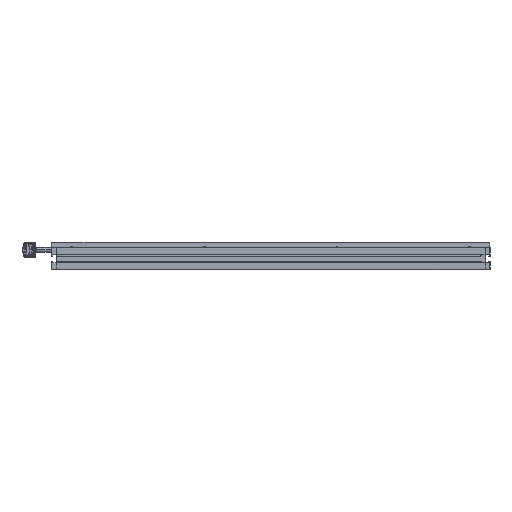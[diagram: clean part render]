
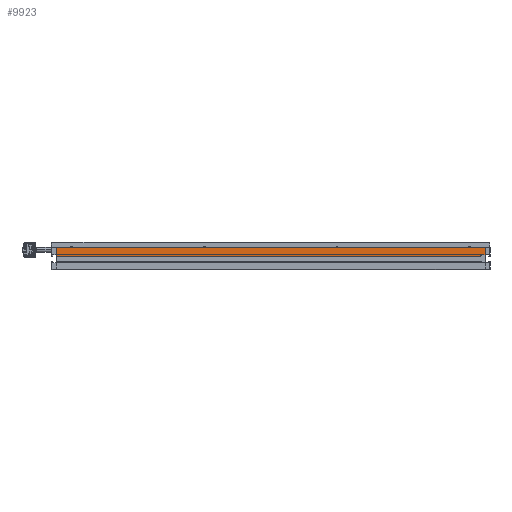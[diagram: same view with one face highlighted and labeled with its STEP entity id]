
A CAD part, front view. The second image highlights one B-rep face of the part: STEP entity #9923.
In plain terms, the highlighted planar face has unit normal (0, -1, 0).
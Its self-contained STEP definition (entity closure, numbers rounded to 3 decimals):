
#197 = EDGE_LOOP ( 'NONE', ( #3082, #5663, #5856, #2994, #9439, #401 ) ) ;
#401 = ORIENTED_EDGE ( 'NONE', *, *, #5069, .T. ) ;
#609 = EDGE_CURVE ( 'NONE', #11138, #11350, #5046, .T. ) ;
#720 = DIRECTION ( 'NONE',  ( -1., 0., 0. ) ) ;
#1024 = CARTESIAN_POINT ( 'NONE',  ( 153.5, -157., -6.15 ) ) ;
#1235 = DIRECTION ( 'NONE',  ( 0., 0., -1. ) ) ;
#1471 = CARTESIAN_POINT ( 'NONE',  ( -153.5, -157., 0. ) ) ;
#1520 = DIRECTION ( 'NONE',  ( -1., 0., 0. ) ) ;
#1668 = CIRCLE ( 'NONE', #11041, 1. ) ;
#2039 = VERTEX_POINT ( 'NONE', #1471 ) ;
#2724 = PLANE ( 'NONE',  #5752 ) ;
#2770 = VERTEX_POINT ( 'NONE', #11396 ) ;
#2994 = ORIENTED_EDGE ( 'NONE', *, *, #4063, .F. ) ;
#3042 = LINE ( 'NONE', #1024, #6306 ) ;
#3082 = ORIENTED_EDGE ( 'NONE', *, *, #6909, .F. ) ;
#3146 = DIRECTION ( 'NONE',  ( -1., 0., 0. ) ) ;
#3633 = VECTOR ( 'NONE', #1235, 1000. ) ;
#4063 = EDGE_CURVE ( 'NONE', #2770, #11138, #3042, .T. ) ;
#4111 = CARTESIAN_POINT ( 'NONE',  ( 150.501, -157., -6.15 ) ) ;
#4304 = VECTOR ( 'NONE', #720, 1000. ) ;
#5046 = LINE ( 'NONE', #5145, #4304 ) ;
#5069 = EDGE_CURVE ( 'NONE', #2039, #6296, #9110, .T. ) ;
#5145 = CARTESIAN_POINT ( 'NONE',  ( 153.5, -157., -5.2 ) ) ;
#5201 = CARTESIAN_POINT ( 'NONE',  ( 153.5, -157., 0. ) ) ;
#5413 = CARTESIAN_POINT ( 'NONE',  ( -153.5, -157., -6.15 ) ) ;
#5663 = ORIENTED_EDGE ( 'NONE', *, *, #7630, .T. ) ;
#5752 = AXIS2_PLACEMENT_3D ( 'NONE', #12201, #11297, #9272 ) ;
#5856 = ORIENTED_EDGE ( 'NONE', *, *, #609, .F. ) ;
#6273 = VECTOR ( 'NONE', #3146, 1000. ) ;
#6296 = VERTEX_POINT ( 'NONE', #5413 ) ;
#6306 = VECTOR ( 'NONE', #10649, 1000. ) ;
#6355 = DIRECTION ( 'NONE',  ( 0., 0., 1. ) ) ;
#6477 = LINE ( 'NONE', #5201, #7067 ) ;
#6909 = EDGE_CURVE ( 'NONE', #7985, #6296, #10261, .T. ) ;
#7067 = VECTOR ( 'NONE', #1520, 1000. ) ;
#7304 = DIRECTION ( 'NONE',  ( 0., 1., 0. ) ) ;
#7630 = EDGE_CURVE ( 'NONE', #7985, #11350, #1668, .T. ) ;
#7867 = CARTESIAN_POINT ( 'NONE',  ( 151.5, -157., -5.2 ) ) ;
#7985 = VERTEX_POINT ( 'NONE', #4111 ) ;
#8026 = CARTESIAN_POINT ( 'NONE',  ( 153.5, -157., -6.15 ) ) ;
#8541 = CARTESIAN_POINT ( 'NONE',  ( 153.5, -157., -5.2 ) ) ;
#9110 = LINE ( 'NONE', #10616, #3633 ) ;
#9248 = CARTESIAN_POINT ( 'NONE',  ( 151.5, -157., -6.2 ) ) ;
#9272 = DIRECTION ( 'NONE',  ( 0., 0., 1. ) ) ;
#9439 = ORIENTED_EDGE ( 'NONE', *, *, #10323, .T. ) ;
#9923 = ADVANCED_FACE ( 'NONE', ( #10037 ), #2724, .F. ) ;
#10037 = FACE_OUTER_BOUND ( 'NONE', #197, .T. ) ;
#10261 = LINE ( 'NONE', #8026, #6273 ) ;
#10323 = EDGE_CURVE ( 'NONE', #2770, #2039, #6477, .T. ) ;
#10616 = CARTESIAN_POINT ( 'NONE',  ( -153.5, -157., -6.15 ) ) ;
#10649 = DIRECTION ( 'NONE',  ( 0., 0., -1. ) ) ;
#11041 = AXIS2_PLACEMENT_3D ( 'NONE', #9248, #7304, #6355 ) ;
#11138 = VERTEX_POINT ( 'NONE', #8541 ) ;
#11297 = DIRECTION ( 'NONE',  ( 0., 1., 0. ) ) ;
#11350 = VERTEX_POINT ( 'NONE', #7867 ) ;
#11396 = CARTESIAN_POINT ( 'NONE',  ( 153.5, -157., 0. ) ) ;
#12201 = CARTESIAN_POINT ( 'NONE',  ( 153.5, -157., -6.15 ) ) ;
